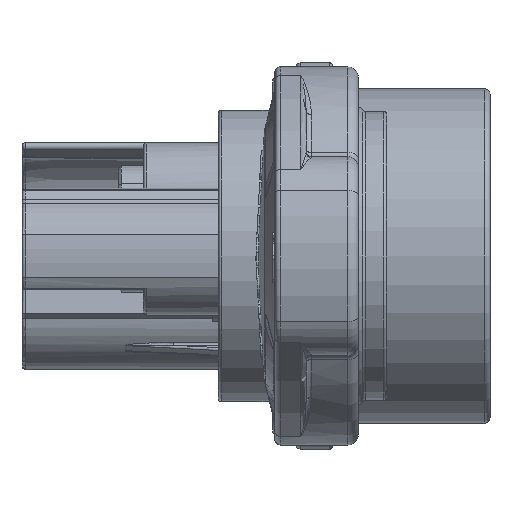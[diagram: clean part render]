
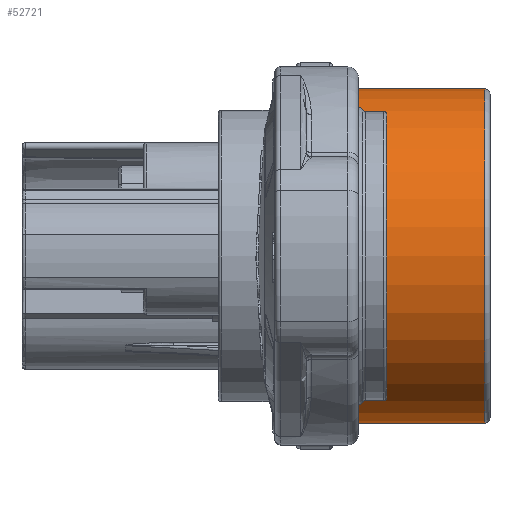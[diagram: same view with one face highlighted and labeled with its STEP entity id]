
A CAD part, front view. The second image highlights one B-rep face of the part: STEP entity #52721.
In plain terms, the highlighted cylindrical face has radius 16 mm (diameter 32 mm), a partial arc.
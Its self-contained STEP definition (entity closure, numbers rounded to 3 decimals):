
#4384 = DIRECTION ( 'NONE',  ( 0., 0., 1. ) ) ;
#11726 = ORIENTED_EDGE ( 'NONE', *, *, #49875, .F. ) ;
#13539 = AXIS2_PLACEMENT_3D ( 'NONE', #20007, #36028, #4384 ) ;
#20007 = CARTESIAN_POINT ( 'NONE',  ( -14.6, 0., 0. ) ) ;
#21926 = VERTEX_POINT ( 'NONE', #32142 ) ;
#23732 = FACE_OUTER_BOUND ( 'NONE', #25116, .T. ) ;
#25116 = EDGE_LOOP ( 'NONE', ( #11726, #41622, #55474, #60784 ) ) ;
#27860 = VERTEX_POINT ( 'NONE', #33117 ) ;
#29139 = VECTOR ( 'NONE', #32638, 1000. ) ;
#29621 = CYLINDRICAL_SURFACE ( 'NONE', #68090, 16. ) ;
#30112 = EDGE_CURVE ( 'NONE', #41456, #27860, #42715, .T. ) ;
#30620 = CARTESIAN_POINT ( 'NONE',  ( -0.5, 0., -16. ) ) ;
#30838 = CIRCLE ( 'NONE', #13539, 16. ) ;
#31805 = DIRECTION ( 'NONE',  ( -1., 0., 0. ) ) ;
#32142 = CARTESIAN_POINT ( 'NONE',  ( -14.6, 0., -16. ) ) ;
#32638 = DIRECTION ( 'NONE',  ( -1., 0., 0. ) ) ;
#33117 = CARTESIAN_POINT ( 'NONE',  ( -0.5, 0., 16. ) ) ;
#33124 = AXIS2_PLACEMENT_3D ( 'NONE', #57505, #31805, #68133 ) ;
#33696 = VERTEX_POINT ( 'NONE', #60983 ) ;
#36028 = DIRECTION ( 'NONE',  ( 1., 0., 0. ) ) ;
#41401 = LINE ( 'NONE', #45924, #47158 ) ;
#41456 = VERTEX_POINT ( 'NONE', #30620 ) ;
#41622 = ORIENTED_EDGE ( 'NONE', *, *, #30112, .T. ) ;
#41795 = DIRECTION ( 'NONE',  ( -1., 0., 0. ) ) ;
#42715 = CIRCLE ( 'NONE', #33124, 16. ) ;
#43123 = LINE ( 'NONE', #53485, #29139 ) ;
#43948 = EDGE_CURVE ( 'NONE', #33696, #21926, #30838, .T. ) ;
#45924 = CARTESIAN_POINT ( 'NONE',  ( -6.268, 0., -16. ) ) ;
#47158 = VECTOR ( 'NONE', #52147, 1000. ) ;
#49875 = EDGE_CURVE ( 'NONE', #41456, #21926, #41401, .T. ) ;
#52147 = DIRECTION ( 'NONE',  ( -1., 0., 0. ) ) ;
#52721 = ADVANCED_FACE ( 'NONE', ( #23732 ), #29621, .T. ) ;
#53485 = CARTESIAN_POINT ( 'NONE',  ( -6.268, 0., 16. ) ) ;
#55474 = ORIENTED_EDGE ( 'NONE', *, *, #61075, .T. ) ;
#57505 = CARTESIAN_POINT ( 'NONE',  ( -0.5, 0., 0. ) ) ;
#58469 = CARTESIAN_POINT ( 'NONE',  ( -6.268, 0., 0. ) ) ;
#60784 = ORIENTED_EDGE ( 'NONE', *, *, #43948, .T. ) ;
#60983 = CARTESIAN_POINT ( 'NONE',  ( -14.6, 0., 16. ) ) ;
#61075 = EDGE_CURVE ( 'NONE', #27860, #33696, #43123, .T. ) ;
#62859 = DIRECTION ( 'NONE',  ( 0., 0., 1. ) ) ;
#68090 = AXIS2_PLACEMENT_3D ( 'NONE', #58469, #41795, #62859 ) ;
#68133 = DIRECTION ( 'NONE',  ( 0., 0., 1. ) ) ;
